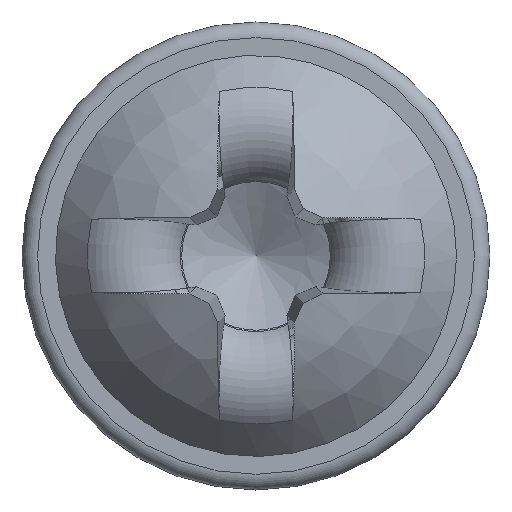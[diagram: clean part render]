
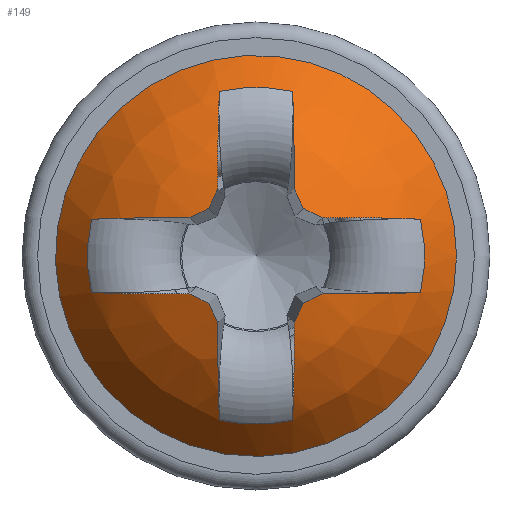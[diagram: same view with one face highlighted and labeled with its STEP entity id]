
A CAD part, top view. The second image highlights one B-rep face of the part: STEP entity #149.
In plain terms, the highlighted spherical face has radius 2.083 mm.
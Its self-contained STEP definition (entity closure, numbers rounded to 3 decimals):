
#118=SPHERICAL_SURFACE('',#910,2.083);
#129=FACE_BOUND('',#253,.T.);
#130=FACE_BOUND('',#254,.T.);
#149=ADVANCED_FACE('',(#129,#130),#118,.T.);
#253=EDGE_LOOP('',(#367));
#254=EDGE_LOOP('',(#368,#369,#370,#371,#372,#373,#374,#375,#376,#377,#378,
#379,#380,#381,#382,#383,#384,#385,#386,#387));
#315=CIRCLE('',#889,1.714);
#316=CIRCLE('',#890,2.078);
#317=CIRCLE('',#891,1.44);
#318=CIRCLE('',#892,2.078);
#319=CIRCLE('',#893,2.063);
#320=CIRCLE('',#894,2.063);
#321=CIRCLE('',#895,2.078);
#322=CIRCLE('',#896,1.44);
#323=CIRCLE('',#897,2.078);
#324=CIRCLE('',#898,2.063);
#325=CIRCLE('',#899,2.063);
#326=CIRCLE('',#900,2.078);
#327=CIRCLE('',#901,1.44);
#328=CIRCLE('',#902,2.078);
#329=CIRCLE('',#903,2.063);
#330=CIRCLE('',#904,2.063);
#331=CIRCLE('',#905,2.078);
#332=CIRCLE('',#906,1.44);
#333=CIRCLE('',#907,2.078);
#334=CIRCLE('',#908,2.063);
#335=CIRCLE('',#909,2.063);
#367=ORIENTED_EDGE('',*,*,#706,.T.);
#368=ORIENTED_EDGE('',*,*,#707,.F.);
#369=ORIENTED_EDGE('',*,*,#708,.T.);
#370=ORIENTED_EDGE('',*,*,#709,.F.);
#371=ORIENTED_EDGE('',*,*,#710,.F.);
#372=ORIENTED_EDGE('',*,*,#711,.F.);
#373=ORIENTED_EDGE('',*,*,#712,.F.);
#374=ORIENTED_EDGE('',*,*,#713,.T.);
#375=ORIENTED_EDGE('',*,*,#714,.F.);
#376=ORIENTED_EDGE('',*,*,#715,.F.);
#377=ORIENTED_EDGE('',*,*,#716,.F.);
#378=ORIENTED_EDGE('',*,*,#717,.F.);
#379=ORIENTED_EDGE('',*,*,#718,.T.);
#380=ORIENTED_EDGE('',*,*,#719,.F.);
#381=ORIENTED_EDGE('',*,*,#720,.F.);
#382=ORIENTED_EDGE('',*,*,#721,.F.);
#383=ORIENTED_EDGE('',*,*,#722,.F.);
#384=ORIENTED_EDGE('',*,*,#723,.T.);
#385=ORIENTED_EDGE('',*,*,#724,.F.);
#386=ORIENTED_EDGE('',*,*,#725,.F.);
#387=ORIENTED_EDGE('',*,*,#726,.F.);
#619=VERTEX_POINT('',#1418);
#620=VERTEX_POINT('',#1420);
#621=VERTEX_POINT('',#1421);
#622=VERTEX_POINT('',#1423);
#623=VERTEX_POINT('',#1425);
#624=VERTEX_POINT('',#1427);
#625=VERTEX_POINT('',#1429);
#626=VERTEX_POINT('',#1431);
#627=VERTEX_POINT('',#1433);
#628=VERTEX_POINT('',#1435);
#629=VERTEX_POINT('',#1437);
#630=VERTEX_POINT('',#1439);
#631=VERTEX_POINT('',#1441);
#632=VERTEX_POINT('',#1443);
#633=VERTEX_POINT('',#1445);
#634=VERTEX_POINT('',#1447);
#635=VERTEX_POINT('',#1449);
#636=VERTEX_POINT('',#1451);
#637=VERTEX_POINT('',#1453);
#638=VERTEX_POINT('',#1455);
#639=VERTEX_POINT('',#1457);
#706=EDGE_CURVE('',#619,#619,#315,.T.);
#707=EDGE_CURVE('',#620,#621,#316,.T.);
#708=EDGE_CURVE('',#620,#622,#317,.T.);
#709=EDGE_CURVE('',#623,#622,#318,.T.);
#710=EDGE_CURVE('',#624,#623,#319,.T.);
#711=EDGE_CURVE('',#625,#624,#320,.T.);
#712=EDGE_CURVE('',#626,#625,#321,.T.);
#713=EDGE_CURVE('',#626,#627,#322,.T.);
#714=EDGE_CURVE('',#628,#627,#323,.T.);
#715=EDGE_CURVE('',#629,#628,#324,.T.);
#716=EDGE_CURVE('',#630,#629,#325,.T.);
#717=EDGE_CURVE('',#631,#630,#326,.T.);
#718=EDGE_CURVE('',#631,#632,#327,.T.);
#719=EDGE_CURVE('',#633,#632,#328,.T.);
#720=EDGE_CURVE('',#634,#633,#329,.T.);
#721=EDGE_CURVE('',#635,#634,#330,.T.);
#722=EDGE_CURVE('',#636,#635,#331,.T.);
#723=EDGE_CURVE('',#636,#637,#332,.T.);
#724=EDGE_CURVE('',#638,#637,#333,.T.);
#725=EDGE_CURVE('',#639,#638,#334,.T.);
#726=EDGE_CURVE('',#621,#639,#335,.T.);
#889=AXIS2_PLACEMENT_3D('',#1417,#976,#977);
#890=AXIS2_PLACEMENT_3D('',#1419,#978,#979);
#891=AXIS2_PLACEMENT_3D('',#1422,#980,#981);
#892=AXIS2_PLACEMENT_3D('',#1424,#982,#983);
#893=AXIS2_PLACEMENT_3D('',#1426,#984,#985);
#894=AXIS2_PLACEMENT_3D('',#1428,#986,#987);
#895=AXIS2_PLACEMENT_3D('',#1430,#988,#989);
#896=AXIS2_PLACEMENT_3D('',#1432,#990,#991);
#897=AXIS2_PLACEMENT_3D('',#1434,#992,#993);
#898=AXIS2_PLACEMENT_3D('',#1436,#994,#995);
#899=AXIS2_PLACEMENT_3D('',#1438,#996,#997);
#900=AXIS2_PLACEMENT_3D('',#1440,#998,#999);
#901=AXIS2_PLACEMENT_3D('',#1442,#1000,#1001);
#902=AXIS2_PLACEMENT_3D('',#1444,#1002,#1003);
#903=AXIS2_PLACEMENT_3D('',#1446,#1004,#1005);
#904=AXIS2_PLACEMENT_3D('',#1448,#1006,#1007);
#905=AXIS2_PLACEMENT_3D('',#1450,#1008,#1009);
#906=AXIS2_PLACEMENT_3D('',#1452,#1010,#1011);
#907=AXIS2_PLACEMENT_3D('',#1454,#1012,#1013);
#908=AXIS2_PLACEMENT_3D('',#1456,#1014,#1015);
#909=AXIS2_PLACEMENT_3D('',#1458,#1016,#1017);
#910=AXIS2_PLACEMENT_3D('',#1459,#1018,#1019);
#976=DIRECTION('',(0.,0.,1.));
#977=DIRECTION('',(1.,0.,0.));
#978=DIRECTION('',(-0.035,0.996,0.087));
#979=DIRECTION('',(0.,-0.087,0.996));
#980=DIRECTION('',(0.,0.,-1.));
#981=DIRECTION('',(-1.,0.,0.));
#982=DIRECTION('',(-0.035,-0.996,0.087));
#983=DIRECTION('',(0.,-0.087,-0.996));
#984=DIRECTION('',(0.404,-0.907,0.122));
#985=DIRECTION('',(0.914,0.407,0.));
#986=DIRECTION('',(0.907,-0.404,0.122));
#987=DIRECTION('',(0.407,0.914,0.));
#988=DIRECTION('',(0.996,0.035,0.087));
#989=DIRECTION('',(0.087,0.,-0.996));
#990=DIRECTION('',(0.,0.,-1.));
#991=DIRECTION('',(-1.,0.,0.));
#992=DIRECTION('',(-0.996,0.035,0.087));
#993=DIRECTION('',(0.087,0.,0.996));
#994=DIRECTION('',(-0.907,-0.404,0.122));
#995=DIRECTION('',(0.407,-0.914,0.));
#996=DIRECTION('',(-0.404,-0.907,0.122));
#997=DIRECTION('',(0.914,-0.407,0.));
#998=DIRECTION('',(0.035,-0.996,0.087));
#999=DIRECTION('',(0.,-0.087,-0.996));
#1000=DIRECTION('',(0.,0.,-1.));
#1001=DIRECTION('',(-1.,0.,0.));
#1002=DIRECTION('',(0.035,0.996,0.087));
#1003=DIRECTION('',(0.,-0.087,0.996));
#1004=DIRECTION('',(-0.404,0.907,0.122));
#1005=DIRECTION('',(-0.914,-0.407,0.));
#1006=DIRECTION('',(-0.907,0.404,0.122));
#1007=DIRECTION('',(-0.407,-0.914,0.));
#1008=DIRECTION('',(-0.996,-0.035,0.087));
#1009=DIRECTION('',(0.087,0.,0.996));
#1010=DIRECTION('',(0.,0.,-1.));
#1011=DIRECTION('',(-1.,0.,0.));
#1012=DIRECTION('',(0.996,-0.035,0.087));
#1013=DIRECTION('',(0.087,0.,-0.996));
#1014=DIRECTION('',(0.907,0.404,0.122));
#1015=DIRECTION('',(-0.407,0.914,0.));
#1016=DIRECTION('',(0.404,0.907,0.122));
#1017=DIRECTION('',(-0.914,0.407,0.));
#1018=DIRECTION('',(0.,0.,1.));
#1019=DIRECTION('',(0.,1.,0.));
#1417=CARTESIAN_POINT('',(0.,0.,0.5));
#1418=CARTESIAN_POINT('',(1.714,0.,0.5));
#1419=CARTESIAN_POINT('',(0.005,-0.131,-0.694));
#1420=CARTESIAN_POINT('',(-1.406,-0.313,0.822));
#1421=CARTESIAN_POINT('',(-0.573,-0.325,1.293));
#1422=CARTESIAN_POINT('',(0.,0.,0.822));
#1423=CARTESIAN_POINT('',(-1.406,0.313,0.822));
#1424=CARTESIAN_POINT('',(0.005,0.131,-0.694));
#1425=CARTESIAN_POINT('',(-0.573,0.325,1.293));
#1426=CARTESIAN_POINT('',(-0.115,0.259,-0.717));
#1427=CARTESIAN_POINT('',(-0.404,0.404,1.32));
#1428=CARTESIAN_POINT('',(-0.259,0.115,-0.717));
#1429=CARTESIAN_POINT('',(-0.325,0.573,1.293));
#1430=CARTESIAN_POINT('',(-0.131,-0.005,-0.694));
#1431=CARTESIAN_POINT('',(-0.313,1.406,0.822));
#1432=CARTESIAN_POINT('',(0.,0.,0.822));
#1433=CARTESIAN_POINT('',(0.313,1.406,0.822));
#1434=CARTESIAN_POINT('',(0.131,-0.005,-0.694));
#1435=CARTESIAN_POINT('',(0.325,0.573,1.293));
#1436=CARTESIAN_POINT('',(0.259,0.115,-0.717));
#1437=CARTESIAN_POINT('',(0.404,0.404,1.32));
#1438=CARTESIAN_POINT('',(0.115,0.259,-0.717));
#1439=CARTESIAN_POINT('',(0.573,0.325,1.293));
#1440=CARTESIAN_POINT('',(-0.005,0.131,-0.694));
#1441=CARTESIAN_POINT('',(1.406,0.313,0.822));
#1442=CARTESIAN_POINT('',(0.,0.,0.822));
#1443=CARTESIAN_POINT('',(1.406,-0.313,0.822));
#1444=CARTESIAN_POINT('',(-0.005,-0.131,-0.694));
#1445=CARTESIAN_POINT('',(0.573,-0.325,1.293));
#1446=CARTESIAN_POINT('',(0.115,-0.259,-0.717));
#1447=CARTESIAN_POINT('',(0.404,-0.404,1.32));
#1448=CARTESIAN_POINT('',(0.259,-0.115,-0.717));
#1449=CARTESIAN_POINT('',(0.325,-0.573,1.293));
#1450=CARTESIAN_POINT('',(0.131,0.005,-0.694));
#1451=CARTESIAN_POINT('',(0.313,-1.406,0.822));
#1452=CARTESIAN_POINT('',(0.,0.,0.822));
#1453=CARTESIAN_POINT('',(-0.313,-1.406,0.822));
#1454=CARTESIAN_POINT('',(-0.131,0.005,-0.694));
#1455=CARTESIAN_POINT('',(-0.325,-0.573,1.293));
#1456=CARTESIAN_POINT('',(-0.259,-0.115,-0.717));
#1457=CARTESIAN_POINT('',(-0.404,-0.404,1.32));
#1458=CARTESIAN_POINT('',(-0.115,-0.259,-0.717));
#1459=CARTESIAN_POINT('',(0.,0.,-0.683));
